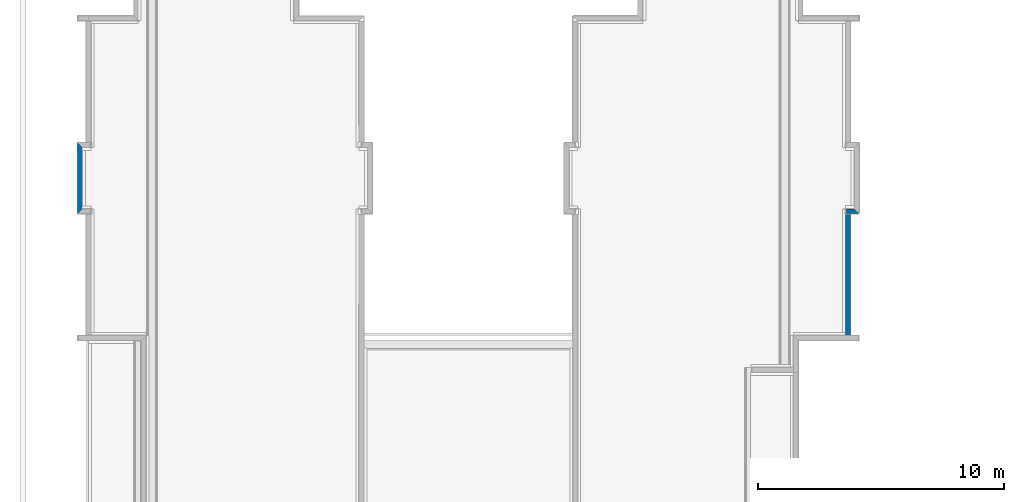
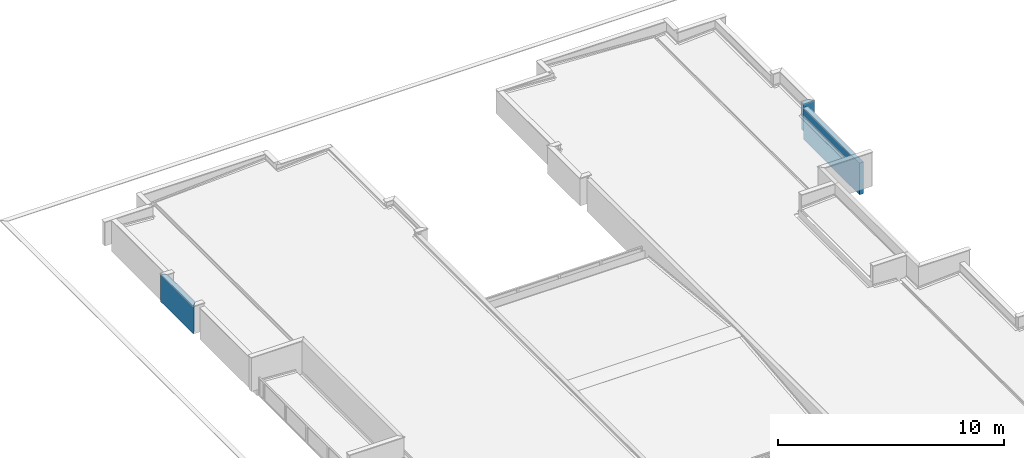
# One storey, part 6 of 25: 3 walls, 1 opening.
"""IFC4 building model written with IfcOpenShell, lengths in metres."""

from ifc_helpers import new_model, entity, si_unit, converted_unit, derived_unit, direction, frame, origin_with_axes, origin_2d_with_axis, place, context, subcontext, project, spatial, line, indexed_curve, rectangle, outline, extrude, material, layer, layer_set, layer_usage, type_object, element, save


model = new_model("IFC4")

# Units and contexts
model_context = context("Model", 3, precision=1e-05, world=origin_with_axes(), true_north=direction((0.0, 1.0)))
body_context = subcontext(model_context, "Body", "Model", "MODEL_VIEW")
ifc_project = project(units=[si_unit("LENGTHUNIT", "METRE"), si_unit("AREAUNIT", "SQUARE_METRE"), si_unit("VOLUMEUNIT", "CUBIC_METRE"), converted_unit("PLANEANGLEUNIT", "DEGREE", entity("IfcPlaneAngleMeasure", 0.0174532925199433), si_unit("PLANEANGLEUNIT", "RADIAN"), dimensions=[0, 0, 0, 0, 0, 0, 0]), converted_unit("TIMEUNIT", "Year", entity("IfcTimeMeasure", 31557600.0), si_unit("TIMEUNIT", "SECOND"), dimensions=[0, 0, 1, 0, 0, 0, 0]), si_unit("MASSUNIT", "GRAM", prefix="KILO"), si_unit("THERMODYNAMICTEMPERATUREUNIT", "DEGREE_CELSIUS"), si_unit("LUMINOUSINTENSITYUNIT", "LUMEN"), si_unit("ENERGYUNIT", "JOULE", prefix="MEGA"), derived_unit("THERMALCONDUCTANCEUNIT", [(si_unit("POWERUNIT", "WATT"), 1), (si_unit("LENGTHUNIT", "METRE"), -1), (si_unit("THERMODYNAMICTEMPERATUREUNIT", "KELVIN"), -1)]), derived_unit("SPECIFICHEATCAPACITYUNIT", [(si_unit("ENERGYUNIT", "JOULE"), 1), (si_unit("MASSUNIT", "GRAM", prefix="KILO"), -1), (si_unit("THERMODYNAMICTEMPERATUREUNIT", "KELVIN"), -1)]), derived_unit("MASSDENSITYUNIT", [(si_unit("MASSUNIT", "GRAM", prefix="KILO"), 1), (si_unit("VOLUMEUNIT", "CUBIC_METRE"), -1)])], contexts=[model_context])

# Site, building, storey
site_placement = place(None, origin_with_axes())
site = spatial("IfcSite", under=ifc_project, at=site_placement, Name="PADRÃO", CompositionType="ELEMENT")
building_placement = place(site_placement, origin_with_axes())
building = spatial("IfcBuilding", under=site, at=building_placement, Name="CRECHE PRÉ-ESCOLA TIPO 2", CompositionType="ELEMENT")
storey_placement = place(building_placement, frame((0.0, 0.0, 3.26), z_axis=(0.0, 0.0, 1.0), x_axis=(1.0, 0.0, 0.0)))
storey = spatial("IfcBuildingStorey", under=building, at=storey_placement, Name="COBERTURA", CompositionType="ELEMENT", Elevation=3.26)

# Walls
ifc_material_1 = material(Name="EI-REV-Pintura Acrílica Cor Branco Gelo")
ifc_layer_1 = layer(ifc_material_1, 0.015, ventilated="UNKNOWN", Name="EI-REV-Pintura Acrílica Cor Branco Gelo 1")
ifc_material_2 = material(Name="EI-REV-Massa Acrílica (externa)")
ifc_layer_2 = layer(ifc_material_2, 0.005, ventilated="UNKNOWN", Name="EI-REV-Massa Acrílica (externa) 1")
ifc_material_3 = material(Name="EI-REV-Massa única - Fachada")
ifc_layer_3 = layer(ifc_material_3, 0.005, ventilated="UNKNOWN", Name="EI-REV-Massa única - Fachada 1")
ifc_material_4 = material(Name="EI-REV-Chapisco (externo)")
ifc_layer_4 = layer(ifc_material_4, 0.005, ventilated="UNKNOWN", Name="EI-REV-Chapisco (externo) 1")
ifc_material_5 = material(Name="TIJOLO - CERAMICO 14x19x39 - espessura 20cm")
ifc_layer_5 = layer(ifc_material_5, 0.14, ventilated="UNKNOWN", Name="TIJOLO - CERAMICO 14x19x39 - espessura 20cm")
ifc_layer_6 = layer(ifc_material_4, 0.005, ventilated="UNKNOWN", Name="EI-REV-Chapisco (externo) 2")
ifc_layer_7 = layer(ifc_material_3, 0.005, ventilated="UNKNOWN", Name="EI-REV-Massa única - Fachada 2")
ifc_layer_8 = layer(ifc_material_2, 0.005, ventilated="UNKNOWN", Name="EI-REV-Massa Acrílica (externa) 2")
ifc_layer_9 = layer(ifc_material_1, 0.015, ventilated="UNKNOWN", Name="EI-REV-Pintura Acrílica Cor Branco Gelo 2")
ifc_layer_set_1 = layer_set([ifc_layer_1, ifc_layer_2, ifc_layer_3, ifc_layer_4, ifc_layer_5, ifc_layer_6, ifc_layer_7, ifc_layer_8, ifc_layer_9], Name="FNDE-PLAT_AL14-Pintura Branca")
ifc_layer_usage_1 = layer_usage(ifc_layer_set_1, "AXIS2", "POSITIVE", -0.1)
wall_type_1 = type_object("IfcWallType", Name="FNDE-PLAT_AL14-Pintura Branca 200", PredefinedType="NOTDEFINED")
wall_1_placement = place(storey_placement, frame((-6.34001620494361, 26.9500933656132, -0.410000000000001), z_axis=(0.0, 0.0, 1.0), x_axis=(0.0, 1.0, 0.0)))
element("IfcWall", 1, at=wall_1_placement, inside=storey, type_object=wall_type_1, material=ifc_layer_usage_1, Name="AL14", PredefinedType="NOTDEFINED", context=body_context, shape_type="SweptSolid", body=[
    extrude(outline(indexed_curve([(0.0, -0.100000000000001), (4.94999676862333, -0.100000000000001), (4.94999676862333, 0.100000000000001), (0.0, 0.100000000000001)], segments=[line(1, 2, 3, 4, 1)])), origin_with_axes(), (0.0, 0.0, 1.0), 1.72),
])
ifc_material_6 = material(Name="EI-REV-Pintura Acrílica Cor Azul Externa")
ifc_layer_10 = layer(ifc_material_6, 0.015, ventilated="UNKNOWN", Name="EI-REV-Pintura Acrílica Cor Azul Externa")
ifc_layer_11 = layer(ifc_material_2, 0.005, ventilated="UNKNOWN", Name="EI-REV-Massa Acrílica (externa) 1")
ifc_layer_12 = layer(ifc_material_3, 0.005, ventilated="UNKNOWN", Name="EI-REV-Massa única - Fachada 1")
ifc_layer_13 = layer(ifc_material_4, 0.005, ventilated="UNKNOWN", Name="EI-REV-Chapisco (externo) 1")
ifc_layer_14 = layer(ifc_material_5, 0.14, ventilated="UNKNOWN", Name="TIJOLO - CERAMICO 14x19x39 - espessura 20cm")
ifc_layer_15 = layer(ifc_material_4, 0.005, ventilated="UNKNOWN", Name="EI-REV-Chapisco (externo) 2")
ifc_layer_16 = layer(ifc_material_3, 0.005, ventilated="UNKNOWN", Name="EI-REV-Massa única - Fachada 2")
ifc_layer_17 = layer(ifc_material_2, 0.005, ventilated="UNKNOWN", Name="EI-REV-Massa Acrílica (externa) 2")
ifc_layer_18 = layer(ifc_material_1, 0.015, ventilated="UNKNOWN", Name="EI-REV-Pintura Acrílica Cor Branco Gelo")
ifc_layer_set_2 = layer_set([ifc_layer_10, ifc_layer_11, ifc_layer_12, ifc_layer_13, ifc_layer_14, ifc_layer_15, ifc_layer_16, ifc_layer_17, ifc_layer_18], Name="FNDE-PLAT_AL14-Pintura Azul - Branca")
ifc_layer_usage_2 = layer_usage(ifc_layer_set_2, "AXIS2", "NEGATIVE", 0.1)
wall_type_2 = type_object("IfcWallType", Name="FNDE-PLAT_AL14-Pintura Azul - Branca 200", PredefinedType="NOTDEFINED")
wall_2_placement = place(storey_placement, frame((-37.5900921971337, 32.0000019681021, 0.0), z_axis=(0.0, 0.0, 1.0), x_axis=(0.0, 1.0, 0.0)))
element("IfcWall", 2, at=wall_2_placement, inside=storey, type_object=wall_type_2, material=ifc_layer_usage_2, Name="AL14", PredefinedType="NOTDEFINED", context=body_context, shape_type="SweptSolid", body=[
    extrude(outline(indexed_curve([(0.0999999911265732, -0.0999999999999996), (2.59997901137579, -0.1), (2.79996700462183, 0.100000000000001), (-0.0999999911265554, 0.1)], segments=[line(1, 2, 3, 4, 1)])), origin_with_axes(), (0.0, 0.0, 1.0), 1.51),
])

# Wall, opening
ifc_layer_usage_3 = layer_usage(ifc_layer_set_2, "AXIS2", "NEGATIVE", 0.1)
wall_3_placement = place(storey_placement, frame((-5.99017858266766, 32.000127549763, 0.0), z_axis=(0.0, 0.0, 1.0), x_axis=(-1.0, 0.0, 0.0)))
wall_3 = element("IfcWall", 3, at=wall_3_placement, inside=storey, type_object=wall_type_2, material=ifc_layer_usage_3, Name="AL14", PredefinedType="NOTDEFINED", context=body_context, shape_type="SweptSolid", body=[
    extrude(outline(indexed_curve([(0.100000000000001, -0.100000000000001), (0.450000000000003, -0.100000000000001), (0.450000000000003, 0.0999999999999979), (-0.100000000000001, 0.0999999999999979)], segments=[line(1, 2, 3, 4, 1)])), origin_with_axes(), (0.0, 0.0, 1.0), 1.51),
])
opening_placement = place(wall_3_placement, frame((0.450000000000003, 0.0, 0.0), z_axis=(0.0, 0.0, 1.0), x_axis=(1.0, 0.0, 0.0)))
element("IfcOpeningElement", 4, at=opening_placement, cuts=wall_3, Name="AL14", ObjectType="Recess", context=body_context, shape_type="SweptSolid", body=[
    extrude(rectangle(XDim=0.184999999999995, YDim=0.0150000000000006, at=origin_2d_with_axis()), frame((-0.00750000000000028, -0.00750000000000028, 0.0), z_axis=(0.0, 0.0, 1.0), x_axis=(0.0, -1.0, 0.0)), (0.0, 0.0, 1.0), 1.51),
    extrude(rectangle(XDim=0.169999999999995, YDim=0.00500000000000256, at=origin_2d_with_axis()), frame((-0.0175000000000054, 0.0, 0.0), z_axis=(0.0, 0.0, 1.0), x_axis=(0.0, -1.0, 0.0)), (0.0, 0.0, 1.0), 1.51),
    extrude(rectangle(XDim=0.164999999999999, YDim=0.00499999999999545, at=origin_2d_with_axis()), frame((-0.0225000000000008, 0.00249999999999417, 0.0), z_axis=(0.0, 0.0, 1.0), x_axis=(0.0, -1.0, 0.0)), (0.0, 0.0, 1.0), 1.51),
])

save(model, "model.ifc")
